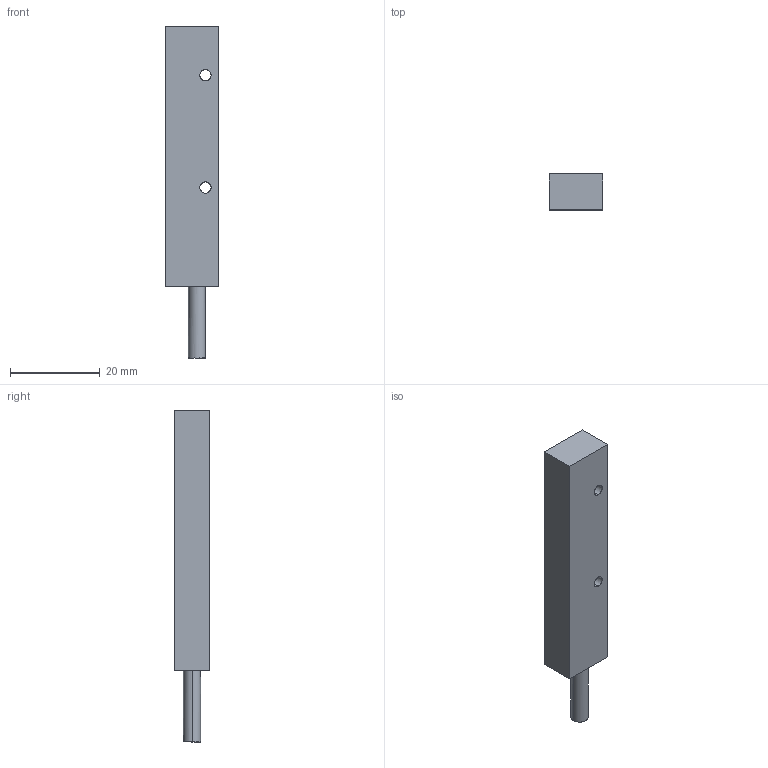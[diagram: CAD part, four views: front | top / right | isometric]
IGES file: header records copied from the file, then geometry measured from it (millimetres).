
Start section: Comment
Global section: file name: FxDM08_Kabel.igs; native system:  By Spatial Corp.; preprocessor: XPlus PS/IGES 3.0; author: Author; organization: Title; date: 20030929.141156; units: inch
Bounding box: 12 x 8 x 74 mm (x, y, z)
Surface area: 2811.2 mm2 (no closed solid volume)
Topology: 0 solids, 0 shells, 16 faces, 72 edges, 72 vertices
Faces by surface type: bspline 16
